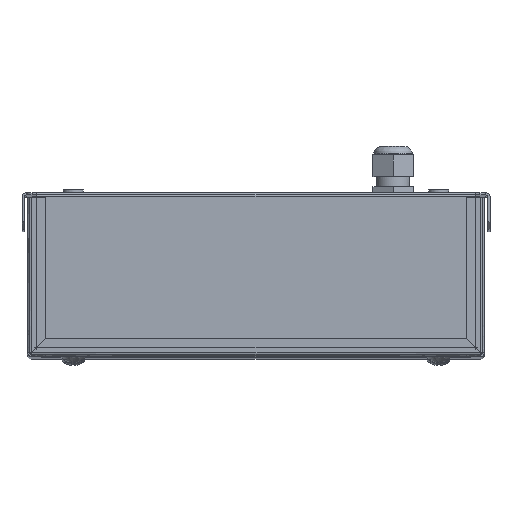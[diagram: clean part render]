
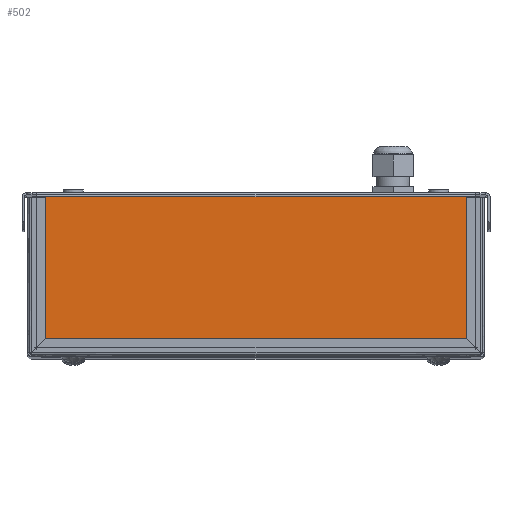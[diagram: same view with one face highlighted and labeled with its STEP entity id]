
A CAD part, top view. The second image highlights one B-rep face of the part: STEP entity #502.
In plain terms, the highlighted planar face has unit normal (0, 0, 1).
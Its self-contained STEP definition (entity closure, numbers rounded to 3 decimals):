
#502=ADVANCED_FACE('',(#882),#4918,.T.);
#882=FACE_OUTER_BOUND('',#1262,.T.);
#1262=EDGE_LOOP('',(#2628,#2629,#2630,#2631));
#2628=ORIENTED_EDGE('',*,*,#3417,.F.);
#2629=ORIENTED_EDGE('',*,*,#3416,.F.);
#2630=ORIENTED_EDGE('',*,*,#3364,.F.);
#2631=ORIENTED_EDGE('',*,*,#3415,.T.);
#3364=EDGE_CURVE('',#4548,#4562,#3649,.T.);
#3415=EDGE_CURVE('',#4548,#4573,#4159,.T.);
#3416=EDGE_CURVE('',#4562,#4591,#4160,.T.);
#3417=EDGE_CURVE('',#4591,#4573,#4161,.T.);
#3649=(
BOUNDED_CURVE()
B_SPLINE_CURVE(1,(#10604,#10605),.UNSPECIFIED.,.F.,.F.)
B_SPLINE_CURVE_WITH_KNOTS((2,2),(0.,1.),.UNSPECIFIED.)
CURVE()
GEOMETRIC_REPRESENTATION_ITEM()
RATIONAL_B_SPLINE_CURVE((1.,1.))
REPRESENTATION_ITEM('')
);
#4159=B_SPLINE_CURVE_WITH_KNOTS('',1,(#10726,#10727),.UNSPECIFIED.,.F.,
 .F.,(2,2),(-82.6,0.),.UNSPECIFIED.);
#4160=B_SPLINE_CURVE_WITH_KNOTS('',1,(#10728,#10729),.UNSPECIFIED.,.F.,
 .F.,(2,2),(0.,82.6),.UNSPECIFIED.);
#4161=B_SPLINE_CURVE_WITH_KNOTS('',1,(#10730,#10731),.UNSPECIFIED.,.F.,
 .F.,(2,2),(0.,239.6),.UNSPECIFIED.);
#4548=VERTEX_POINT('',#9959);
#4562=VERTEX_POINT('',#9973);
#4573=VERTEX_POINT('',#9984);
#4591=VERTEX_POINT('',#10002);
#4918=PLANE('',#5128);
#5128=AXIS2_PLACEMENT_3D('',#9673,#5321,$);
#5321=DIRECTION('',(0.,0.,1.));
#9673=CARTESIAN_POINT('',(1869.2,31.8,776.));
#9959=CARTESIAN_POINT('',(1869.2,31.8,776.));
#9973=CARTESIAN_POINT('',(2108.8,31.8,776.));
#9984=CARTESIAN_POINT('',(1869.2,-50.8,776.));
#10002=CARTESIAN_POINT('',(2108.8,-50.8,776.));
#10604=CARTESIAN_POINT('',(1869.2,31.8,776.));
#10605=CARTESIAN_POINT('',(2108.8,31.8,776.));
#10726=CARTESIAN_POINT('',(1869.2,31.8,776.));
#10727=CARTESIAN_POINT('',(1869.2,-50.8,776.));
#10728=CARTESIAN_POINT('',(2108.8,31.8,776.));
#10729=CARTESIAN_POINT('',(2108.8,-50.8,776.));
#10730=CARTESIAN_POINT('',(2108.8,-50.8,776.));
#10731=CARTESIAN_POINT('',(1869.2,-50.8,776.));
